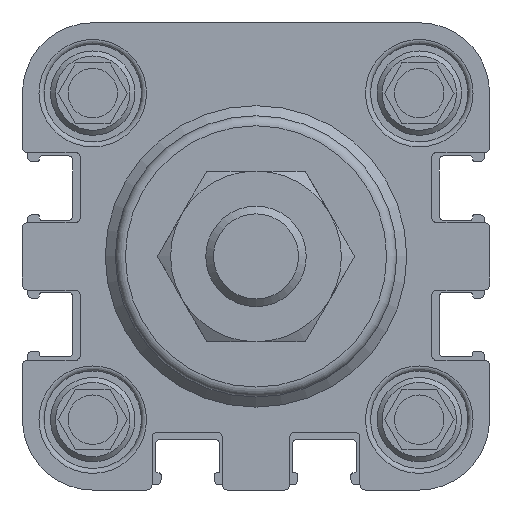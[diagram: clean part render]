
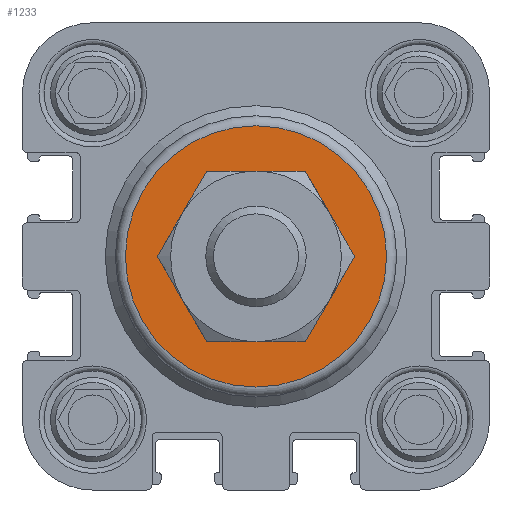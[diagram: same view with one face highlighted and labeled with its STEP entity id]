
A CAD part, left-side view. The second image highlights one B-rep face of the part: STEP entity #1233.
In plain terms, the highlighted planar face has unit normal (-1, 0, 0).
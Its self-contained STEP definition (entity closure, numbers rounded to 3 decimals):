
#1233 = ADVANCED_FACE( '', ( #2680, #2681 ), #2682, .F. );
#2680 = FACE_BOUND( '', #4308, .T. );
#2681 = FACE_OUTER_BOUND( '', #4309, .T. );
#2682 = PLANE( '', #4310 );
#4308 = EDGE_LOOP( '', ( #7751 ) );
#4309 = EDGE_LOOP( '', ( #7752 ) );
#4310 = AXIS2_PLACEMENT_3D( '', #7753, #7754, #7755 );
#7751 = ORIENTED_EDGE( '', *, *, #10579, .F. );
#7752 = ORIENTED_EDGE( '', *, *, #10580, .T. );
#7753 = CARTESIAN_POINT( '', ( -19., 0., 13. ) );
#7754 = DIRECTION( '', ( 1., 0., 0. ) );
#7755 = DIRECTION( '', ( 0., 0., -1. ) );
#10579 = EDGE_CURVE( '', #13019, #13019, #13020, .F. );
#10580 = EDGE_CURVE( '', #13021, #13021, #13022, .T. );
#13019 = VERTEX_POINT( '', #16344 );
#13020 = CIRCLE( '', #16345, 6. );
#13021 = VERTEX_POINT( '', #16346 );
#13022 = CIRCLE( '', #16347, 13. );
#16344 = CARTESIAN_POINT( '', ( -19., 0., -6. ) );
#16345 = AXIS2_PLACEMENT_3D( '', #18501, #18502, #18503 );
#16346 = CARTESIAN_POINT( '', ( -19., 0., 13. ) );
#16347 = AXIS2_PLACEMENT_3D( '', #18504, #18505, #18506 );
#18501 = CARTESIAN_POINT( '', ( -19., 0., 0. ) );
#18502 = DIRECTION( '', ( 1., 0., 0. ) );
#18503 = DIRECTION( '', ( 0., 0., -1. ) );
#18504 = CARTESIAN_POINT( '', ( -19., 0., 0. ) );
#18505 = DIRECTION( '', ( -1., 0., 0. ) );
#18506 = DIRECTION( '', ( 0., 0., 1. ) );
